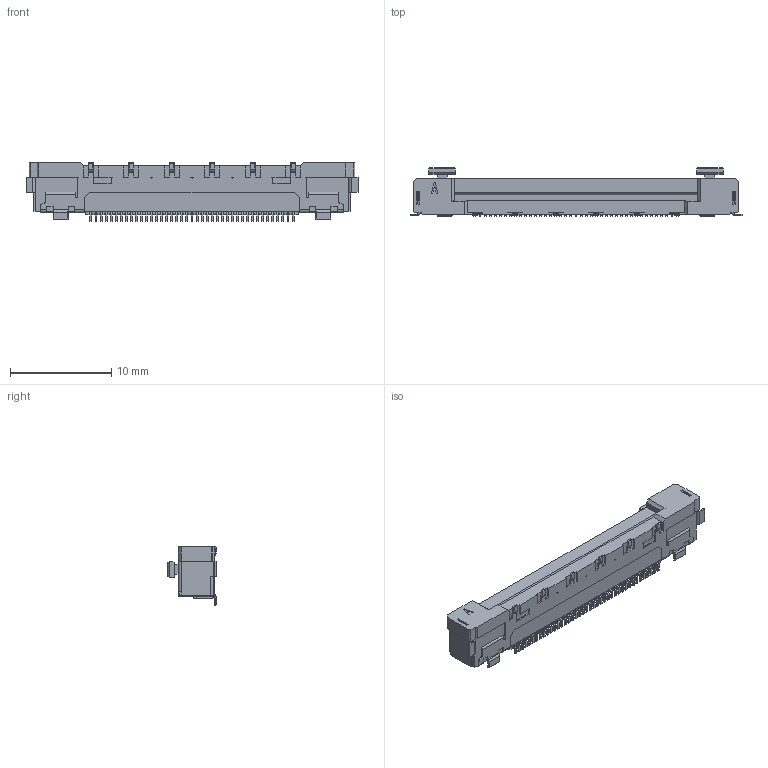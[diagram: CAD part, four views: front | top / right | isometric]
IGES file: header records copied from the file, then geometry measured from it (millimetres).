
Start section: SolidWorks IGES file using analytic representation for surfaces
Global section: file name: C:\3dworks\ozeki\Žg‚í‚È‚¢‚â‚Â\EVAFLEX5\20519-041_iges.IGS; native system: SolidWorks 2011; preprocessor: SolidWorks 2011; author: kaihatsu-3dcad-12; date: 111006.112259; units: millimetre
Bounding box: 32.85 x 4.75 x 5.75 mm (x, y, z)
Surface area: 745.4 mm2 (no closed solid volume)
Topology: 0 solids, 0 shells, 2742 faces, 17435 edges, 17406 vertices
Faces by surface type: bspline 2367, revolution 375
